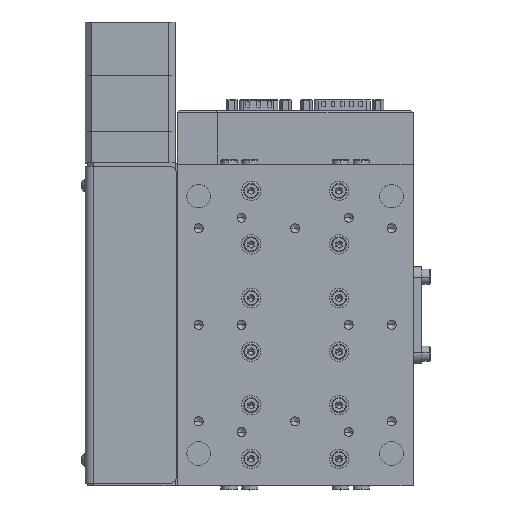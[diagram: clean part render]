
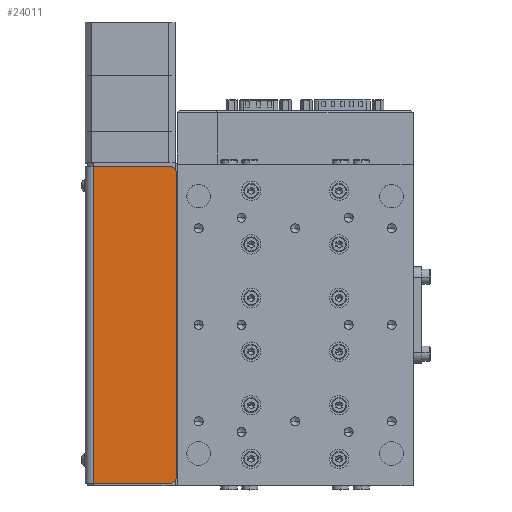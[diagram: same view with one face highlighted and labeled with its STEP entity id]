
A CAD part, top view. The second image highlights one B-rep face of the part: STEP entity #24011.
In plain terms, the highlighted planar face has unit normal (0, 0, 1).
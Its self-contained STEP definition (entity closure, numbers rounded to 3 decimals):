
#1587 = EDGE_CURVE ( 'NONE', #8855, #37049, #20487, .T. ) ;
#2326 = EDGE_CURVE ( 'NONE', #19528, #30121, #44428, .T. ) ;
#3539 = CARTESIAN_POINT ( 'NONE',  ( -94., 74., 41.1 ) ) ;
#6607 = AXIS2_PLACEMENT_3D ( 'NONE', #16926, #34023, #25964 ) ;
#7746 = CARTESIAN_POINT ( 'NONE',  ( -58.5, 74., 41.1 ) ) ;
#8855 = VERTEX_POINT ( 'NONE', #3539 ) ;
#8863 = CARTESIAN_POINT ( 'NONE',  ( -58.5, -74., 41.1 ) ) ;
#11357 = CARTESIAN_POINT ( 'NONE',  ( -58.5, -71., 41.1 ) ) ;
#11540 = DIRECTION ( 'NONE',  ( -1., 0., 0. ) ) ;
#11681 = AXIS2_PLACEMENT_3D ( 'NONE', #32377, #45686, #49387 ) ;
#12692 = EDGE_CURVE ( 'NONE', #56132, #19528, #21939, .T. ) ;
#13322 = LINE ( 'NONE', #51989, #27026 ) ;
#16926 = CARTESIAN_POINT ( 'NONE',  ( -58.5, 71., 41.1 ) ) ;
#17266 = DIRECTION ( 'NONE',  ( 0., 1., 0. ) ) ;
#19528 = VERTEX_POINT ( 'NONE', #54128 ) ;
#19717 = EDGE_CURVE ( 'NONE', #30121, #37049, #34075, .T. ) ;
#20487 = LINE ( 'NONE', #21741, #38324 ) ;
#21326 = CARTESIAN_POINT ( 'NONE',  ( -94., -133.391, 41.1 ) ) ;
#21741 = CARTESIAN_POINT ( 'NONE',  ( -94., 74., 41.1 ) ) ;
#21939 = CIRCLE ( 'NONE', #38250, 3. ) ;
#22380 = FACE_OUTER_BOUND ( 'NONE', #52847, .T. ) ;
#23582 = PLANE ( 'NONE',  #11681 ) ;
#24011 = ADVANCED_FACE ( 'NONE', ( #22380 ), #23582, .F. ) ;
#24700 = EDGE_CURVE ( 'NONE', #56132, #39698, #13322, .T. ) ;
#24710 = VECTOR ( 'NONE', #25761, 1000. ) ;
#25761 = DIRECTION ( 'NONE',  ( 0., 1., 0. ) ) ;
#25964 = DIRECTION ( 'NONE',  ( -1., 0., 0. ) ) ;
#26047 = ORIENTED_EDGE ( 'NONE', *, *, #2326, .T. ) ;
#27026 = VECTOR ( 'NONE', #35533, 1000. ) ;
#30121 = VERTEX_POINT ( 'NONE', #49638 ) ;
#32377 = CARTESIAN_POINT ( 'NONE',  ( -94., -133.391, 41.1 ) ) ;
#32972 = ORIENTED_EDGE ( 'NONE', *, *, #12692, .T. ) ;
#34023 = DIRECTION ( 'NONE',  ( 0., 0., 1. ) ) ;
#34075 = CIRCLE ( 'NONE', #6607, 3. ) ;
#34992 = LINE ( 'NONE', #21326, #24710 ) ;
#35533 = DIRECTION ( 'NONE',  ( -1., 0., 0. ) ) ;
#37049 = VERTEX_POINT ( 'NONE', #7746 ) ;
#38250 = AXIS2_PLACEMENT_3D ( 'NONE', #11357, #46564, #11540 ) ;
#38324 = VECTOR ( 'NONE', #52768, 1000. ) ;
#39698 = VERTEX_POINT ( 'NONE', #41220 ) ;
#40821 = EDGE_CURVE ( 'NONE', #39698, #8855, #34992, .T. ) ;
#40989 = VECTOR ( 'NONE', #17266, 1000. ) ;
#41220 = CARTESIAN_POINT ( 'NONE',  ( -94., -74., 41.1 ) ) ;
#42389 = ORIENTED_EDGE ( 'NONE', *, *, #40821, .F. ) ;
#44428 = LINE ( 'NONE', #56725, #40989 ) ;
#45686 = DIRECTION ( 'NONE',  ( 0., 0., -1. ) ) ;
#46564 = DIRECTION ( 'NONE',  ( 0., 0., 1. ) ) ;
#49387 = DIRECTION ( 'NONE',  ( -1., 0., 0. ) ) ;
#49638 = CARTESIAN_POINT ( 'NONE',  ( -55.5, 71., 41.1 ) ) ;
#50335 = ORIENTED_EDGE ( 'NONE', *, *, #19717, .T. ) ;
#50778 = ORIENTED_EDGE ( 'NONE', *, *, #24700, .F. ) ;
#51326 = ORIENTED_EDGE ( 'NONE', *, *, #1587, .F. ) ;
#51989 = CARTESIAN_POINT ( 'NONE',  ( -94., -74., 41.1 ) ) ;
#52768 = DIRECTION ( 'NONE',  ( 1., 0., 0. ) ) ;
#52847 = EDGE_LOOP ( 'NONE', ( #50778, #32972, #26047, #50335, #51326, #42389 ) ) ;
#54128 = CARTESIAN_POINT ( 'NONE',  ( -55.5, -71., 41.1 ) ) ;
#56132 = VERTEX_POINT ( 'NONE', #8863 ) ;
#56725 = CARTESIAN_POINT ( 'NONE',  ( -55.5, -133.391, 41.1 ) ) ;
